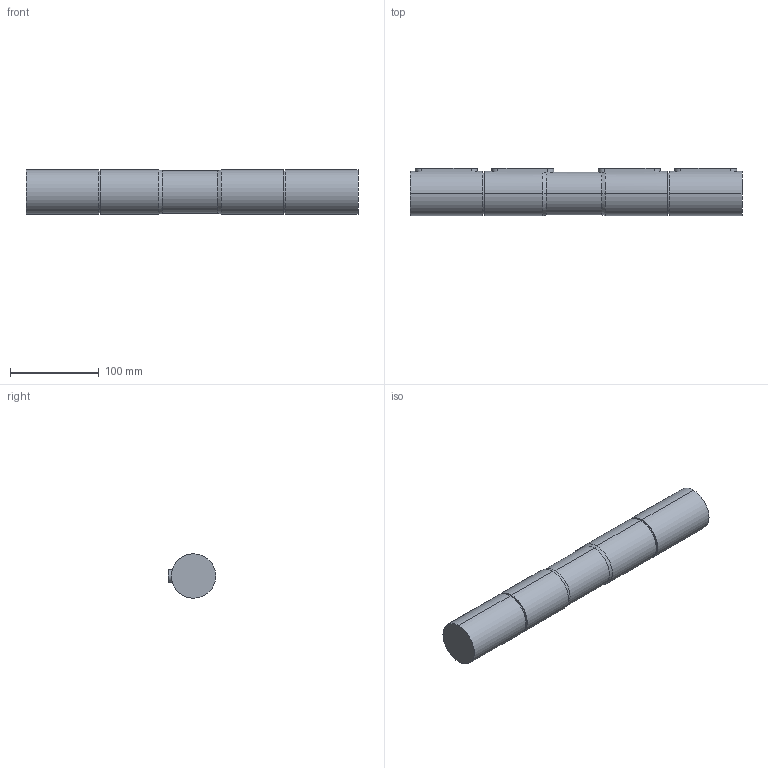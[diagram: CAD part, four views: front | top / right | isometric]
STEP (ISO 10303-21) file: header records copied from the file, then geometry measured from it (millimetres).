
FILE_DESCRIPTION (( 'STEP AP203' ), '1' );
FILE_NAME ('150双出轴.STEP', '2020-04-03T03:09:40', ( '微软用户' ), ( '微软中国' ), 'SwSTEP 2.0', 'SolidWorks 2013', '' );
FILE_SCHEMA (( 'CONFIG_CONTROL_DESIGN' ));
Length unit declared in the file: millimetre
Products named in the file (1): 150邧堤粣
Bounding box: 374 x 53.5 x 50 mm (x, y, z)
Volume: 737645 mm3; surface area: 65888 mm2
Topology: 1 solids, 1 shells, 46 faces, 106 edges, 68 vertices
Faces by surface type: cylinder 22, plane 18, cone 6
Entity records: 1719 total; most frequent: CARTESIAN_POINT 585, DIRECTION 226, ORIENTED_EDGE 212, EDGE_CURVE 106, AXIS2_PLACEMENT_3D 87, VERTEX_POINT 68, LINE 52, EDGE_LOOP 52
